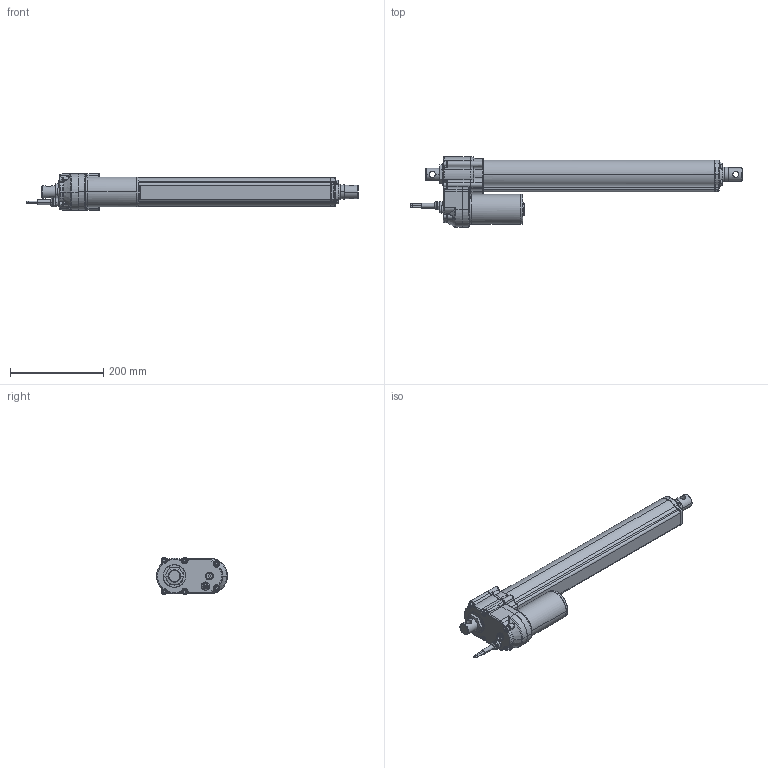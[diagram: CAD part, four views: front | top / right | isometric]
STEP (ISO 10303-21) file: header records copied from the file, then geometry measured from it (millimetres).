
FILE_DESCRIPTION(('STEP AP203'),'1');
FILE_NAME('LINACT-33P-400MM.stp','2025-11-20T12:31:31',('Linear Actuators S.A.'),('Linear Actuators South Africa (Pty) Ltd'),'Spatial InterOp 3D',' ',' ');
FILE_SCHEMA(('CONFIG_CONTROL_DESIGN'));
Length unit declared in the file: millimetre
Products named in the file (1): 1
Bounding box: 711.27 x 151.4 x 79 mm (x, y, z)
Volume: 2808671.4 mm3; surface area: 195401.8 mm2
Topology: 1 solids, 1 shells, 940 faces, 2391 edges, 1467 vertices
Faces by surface type: torus 294, plane 239, cylinder 234, bspline 105, cone 66, sphere 2
Entity records: 41074 total; most frequent: CARTESIAN_POINT 19629, ORIENTED_EDGE 4728, DIRECTION 4260, EDGE_CURVE 2364, AXIS2_PLACEMENT_3D 1786, VERTEX_POINT 1467, EDGE_LOOP 985, CIRCLE 942
